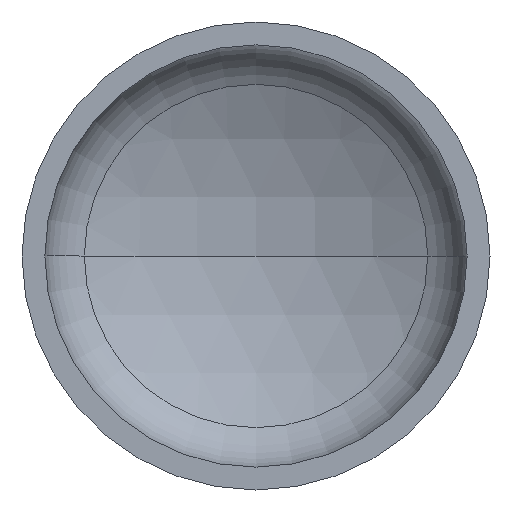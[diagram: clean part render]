
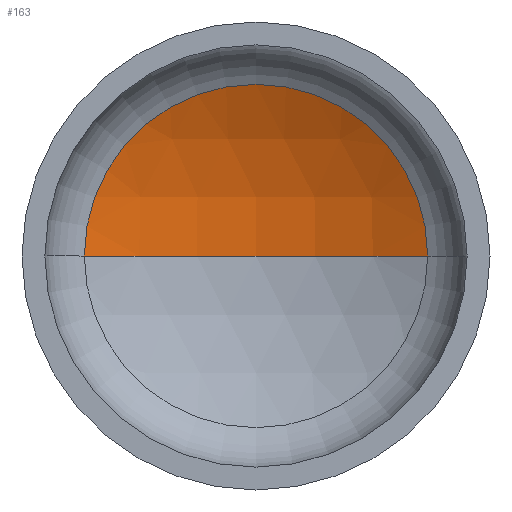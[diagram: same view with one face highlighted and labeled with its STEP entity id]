
A CAD part, front view. The second image highlights one B-rep face of the part: STEP entity #163.
In plain terms, the highlighted spherical face has radius 720 mm.
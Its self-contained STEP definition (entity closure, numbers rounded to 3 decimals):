
#18 = VERTEX_POINT ( 'NONE', #350 ) ;
#27 = ORIENTED_EDGE ( 'NONE', *, *, #194, .T. ) ;
#33 = VERTEX_POINT ( 'NONE', #264 ) ;
#39 = AXIS2_PLACEMENT_3D ( 'NONE', #359, #134, #137 ) ;
#41 = AXIS2_PLACEMENT_3D ( 'NONE', #226, #380, #247 ) ;
#43 = EDGE_LOOP ( 'NONE', ( #50, #376, #27 ) ) ;
#45 = AXIS2_PLACEMENT_3D ( 'NONE', #214, #212, #128 ) ;
#50 = ORIENTED_EDGE ( 'NONE', *, *, #211, .F. ) ;
#53 = AXIS2_PLACEMENT_3D ( 'NONE', #164, #161, #148 ) ;
#128 = DIRECTION ( 'NONE',  ( 1., 0., 0. ) ) ;
#134 = DIRECTION ( 'NONE',  ( 0., 0., 1. ) ) ;
#136 = VERTEX_POINT ( 'NONE', #279 ) ;
#137 = DIRECTION ( 'NONE',  ( 1., 0., 0. ) ) ;
#148 = DIRECTION ( 'NONE',  ( -1., 0., 0. ) ) ;
#161 = DIRECTION ( 'NONE',  ( 0., 0., -1. ) ) ;
#163 = ADVANCED_FACE ( 'NONE', ( #355 ), #171, .F. ) ;
#164 = CARTESIAN_POINT ( 'NONE',  ( 0., -375.407, 0. ) ) ;
#171 = SPHERICAL_SURFACE ( 'NONE', #53, 720. ) ;
#194 = EDGE_CURVE ( 'NONE', #33, #136, #284, .T. ) ;
#199 = EDGE_CURVE ( 'NONE', #18, #33, #397, .T. ) ;
#211 = EDGE_CURVE ( 'NONE', #18, #136, #223, .T. ) ;
#212 = DIRECTION ( 'NONE',  ( 0., -1., 0. ) ) ;
#214 = CARTESIAN_POINT ( 'NONE',  ( 0., 264.408, 0. ) ) ;
#223 = CIRCLE ( 'NONE', #39, 720. ) ;
#226 = CARTESIAN_POINT ( 'NONE',  ( 0., -375.407, 0. ) ) ;
#247 = DIRECTION ( 'NONE',  ( -1., 0., 0. ) ) ;
#264 = CARTESIAN_POINT ( 'NONE',  ( 330.207, 264.408, 0. ) ) ;
#279 = CARTESIAN_POINT ( 'NONE',  ( -330.207, 264.408, 0. ) ) ;
#284 = CIRCLE ( 'NONE', #45, 330.207 ) ;
#350 = CARTESIAN_POINT ( 'NONE',  ( 0., 344.593, 0. ) ) ;
#355 = FACE_OUTER_BOUND ( 'NONE', #43, .T. ) ;
#359 = CARTESIAN_POINT ( 'NONE',  ( 0., -375.407, 0. ) ) ;
#376 = ORIENTED_EDGE ( 'NONE', *, *, #199, .T. ) ;
#380 = DIRECTION ( 'NONE',  ( 0., 0., -1. ) ) ;
#397 = CIRCLE ( 'NONE', #41, 720. ) ;
